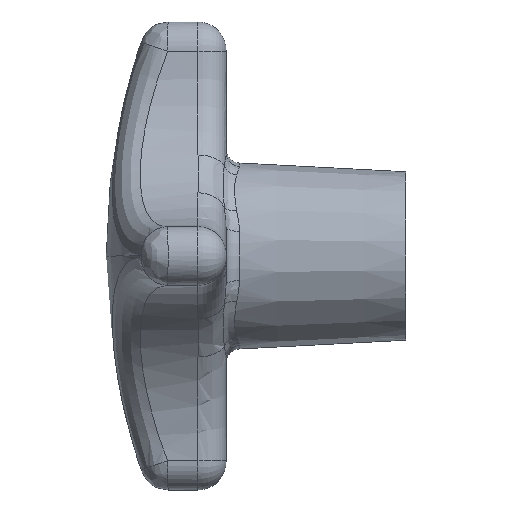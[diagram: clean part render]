
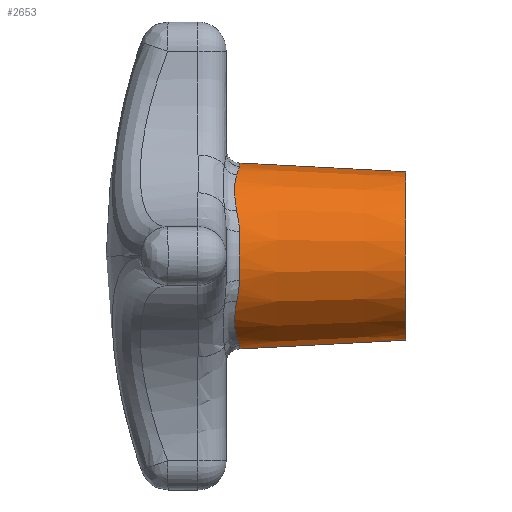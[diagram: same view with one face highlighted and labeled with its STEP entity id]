
A CAD part, left-side view. The second image highlights one B-rep face of the part: STEP entity #2653.
In plain terms, the highlighted conical face has half-angle 3 degrees and reference radius 9 mm.
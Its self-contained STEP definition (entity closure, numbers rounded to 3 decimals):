
#12 = CARTESIAN_POINT ( 'NONE',  ( -8.664, -1.126, 4.887 ) ) ;
#23 = CARTESIAN_POINT ( 'NONE',  ( -8.446, -1.043, 5.281 ) ) ;
#24 = EDGE_CURVE ( 'NONE', #2243, #1376, #2958, .T. ) ;
#108 = VERTEX_POINT ( 'NONE', #3101 ) ;
#125 = CARTESIAN_POINT ( 'NONE',  ( -8.446, -1.043, -5.282 ) ) ;
#136 = CARTESIAN_POINT ( 'NONE',  ( -8.201, -0.998, -5.659 ) ) ;
#155 = DIRECTION ( 'NONE',  ( 0., -1., 0. ) ) ;
#156 = EDGE_CURVE ( 'NONE', #2243, #2317, #3450, .T. ) ;
#173 = CONICAL_SURFACE ( 'NONE', #2635, 9., 0.052 ) ;
#211 = CARTESIAN_POINT ( 'NONE',  ( -4.887, -1.126, 8.664 ) ) ;
#258 = DIRECTION ( 'NONE',  ( 0., 1., 0. ) ) ;
#284 = VERTEX_POINT ( 'NONE', #2660 ) ;
#285 = CARTESIAN_POINT ( 'NONE',  ( 0., -19.2, 9. ) ) ;
#317 = AXIS2_PLACEMENT_3D ( 'NONE', #3283, #3272, #1572 ) ;
#330 = ORIENTED_EDGE ( 'NONE', *, *, #358, .T. ) ;
#355 = CARTESIAN_POINT ( 'NONE',  ( 0., -1.421, 9.932 ) ) ;
#358 = EDGE_CURVE ( 'NONE', #1628, #3368, #2911, .T. ) ;
#389 = ORIENTED_EDGE ( 'NONE', *, *, #24, .T. ) ;
#405 = VECTOR ( 'NONE', #544, 1000. ) ;
#409 = EDGE_CURVE ( 'NONE', #1769, #2745, #507, .T. ) ;
#413 = CARTESIAN_POINT ( 'NONE',  ( -5.281, -1.043, -8.446 ) ) ;
#435 = CARTESIAN_POINT ( 'NONE',  ( -3.429, -1.421, -9.358 ) ) ;
#471 = CARTESIAN_POINT ( 'NONE',  ( -9.358, -1.421, -3.429 ) ) ;
#488 = CARTESIAN_POINT ( 'NONE',  ( -8.664, -1.126, 4.887 ) ) ;
#492 = DIRECTION ( 'NONE',  ( 0., 1., 0. ) ) ;
#507 = B_SPLINE_CURVE_WITH_KNOTS ( 'NONE', 3,
 ( #2389, #985, #435, #727 ),
 .UNSPECIFIED., .F., .F.,
 ( 4, 4 ),
 ( 0., 0.002 ),
 .UNSPECIFIED. ) ;
#519 = EDGE_LOOP ( 'NONE', ( #1465, #389, #2466, #330, #2872, #3055, #1810, #3405, #663, #686, #1164, #2521 ) ) ;
#544 = DIRECTION ( 'NONE',  ( 0., 0.999, 0.052 ) ) ;
#573 = EDGE_CURVE ( 'NONE', #284, #108, #1304, .T. ) ;
#600 = AXIS2_PLACEMENT_3D ( 'NONE', #3227, #155, #1522 ) ;
#601 = DIRECTION ( 'NONE',  ( 0., 0.999, -0.052 ) ) ;
#663 = ORIENTED_EDGE ( 'NONE', *, *, #573, .T. ) ;
#686 = ORIENTED_EDGE ( 'NONE', *, *, #747, .T. ) ;
#694 = CARTESIAN_POINT ( 'NONE',  ( -4.177, -1.276, 9.056 ) ) ;
#696 = CARTESIAN_POINT ( 'NONE',  ( -6.377, -0.936, -7.66 ) ) ;
#711 = B_SPLINE_CURVE_WITH_KNOTS ( 'NONE', 3,
 ( #2515, #2499, #852, #840, #2803, #1136, #1391, #3383, #23, #12 ),
 .UNSPECIFIED., .F., .F.,
 ( 4, 2, 2, 2, 4 ),
 ( 0., 0.001, 0.003, 0.004, 0.005 ),
 .UNSPECIFIED. ) ;
#727 = CARTESIAN_POINT ( 'NONE',  ( -2.63, -1.421, -9.577 ) ) ;
#747 = EDGE_CURVE ( 'NONE', #108, #1769, #815, .T. ) ;
#797 = CARTESIAN_POINT ( 'NONE',  ( -8.664, -1.126, -4.887 ) ) ;
#815 = B_SPLINE_CURVE_WITH_KNOTS ( 'NONE', 3,
 ( #1513, #125, #136, #2358, #2079, #3521, #696, #2663, #413, #3230 ),
 .UNSPECIFIED., .F., .F.,
 ( 4, 2, 2, 2, 4 ),
 ( 0., 0.001, 0.003, 0.004, 0.005 ),
 .UNSPECIFIED. ) ;
#840 = CARTESIAN_POINT ( 'NONE',  ( -6.377, -0.936, 7.661 ) ) ;
#852 = CARTESIAN_POINT ( 'NONE',  ( -5.659, -0.998, 8.201 ) ) ;
#924 = DIRECTION ( 'NONE',  ( 0., -1., 0. ) ) ;
#931 = CARTESIAN_POINT ( 'NONE',  ( -9.056, -1.276, 4.177 ) ) ;
#943 = CARTESIAN_POINT ( 'NONE',  ( 0., -19.2, -9. ) ) ;
#985 = CARTESIAN_POINT ( 'NONE',  ( -4.177, -1.276, -9.056 ) ) ;
#1128 = CARTESIAN_POINT ( 'NONE',  ( 0., -19.2, 9. ) ) ;
#1136 = CARTESIAN_POINT ( 'NONE',  ( -7.363, -0.921, 6.72 ) ) ;
#1155 = CARTESIAN_POINT ( 'NONE',  ( -8.664, -1.126, 4.887 ) ) ;
#1164 = ORIENTED_EDGE ( 'NONE', *, *, #409, .T. ) ;
#1285 = CARTESIAN_POINT ( 'NONE',  ( 0., -19.2, 0. ) ) ;
#1304 = B_SPLINE_CURVE_WITH_KNOTS ( 'NONE', 3,
 ( #3295, #471, #2170, #797 ),
 .UNSPECIFIED., .F., .F.,
 ( 4, 4 ),
 ( 0., 0.002 ),
 .UNSPECIFIED. ) ;
#1376 = VERTEX_POINT ( 'NONE', #285 ) ;
#1391 = CARTESIAN_POINT ( 'NONE',  ( -7.66, -0.936, 6.377 ) ) ;
#1465 = ORIENTED_EDGE ( 'NONE', *, *, #156, .F. ) ;
#1492 = CARTESIAN_POINT ( 'NONE',  ( -2.63, -1.421, 9.577 ) ) ;
#1513 = CARTESIAN_POINT ( 'NONE',  ( -8.664, -1.126, -4.887 ) ) ;
#1522 = DIRECTION ( 'NONE',  ( 0., 0., -1. ) ) ;
#1572 = DIRECTION ( 'NONE',  ( 0., 0., -1. ) ) ;
#1628 = VERTEX_POINT ( 'NONE', #355 ) ;
#1675 = CARTESIAN_POINT ( 'NONE',  ( -2.63, -1.421, -9.577 ) ) ;
#1745 = CARTESIAN_POINT ( 'NONE',  ( 0., -1.421, 0. ) ) ;
#1756 = DIRECTION ( 'NONE',  ( 0., 0., -1. ) ) ;
#1763 = CARTESIAN_POINT ( 'NONE',  ( -9.577, -1.421, 2.63 ) ) ;
#1769 = VERTEX_POINT ( 'NONE', #2928 ) ;
#1810 = ORIENTED_EDGE ( 'NONE', *, *, #2100, .T. ) ;
#1842 = VERTEX_POINT ( 'NONE', #488 ) ;
#1928 = CARTESIAN_POINT ( 'NONE',  ( 0., -19.2, -9. ) ) ;
#1929 = DIRECTION ( 'NONE',  ( 0., 0., 1. ) ) ;
#1982 = EDGE_CURVE ( 'NONE', #1376, #1628, #2278, .T. ) ;
#2079 = CARTESIAN_POINT ( 'NONE',  ( -7.365, -0.921, -6.718 ) ) ;
#2081 = AXIS2_PLACEMENT_3D ( 'NONE', #2441, #258, #1929 ) ;
#2100 = EDGE_CURVE ( 'NONE', #1842, #3361, #2567, .T. ) ;
#2170 = CARTESIAN_POINT ( 'NONE',  ( -9.056, -1.276, -4.177 ) ) ;
#2225 = EDGE_CURVE ( 'NONE', #3368, #3493, #3149, .T. ) ;
#2243 = VERTEX_POINT ( 'NONE', #943 ) ;
#2278 = LINE ( 'NONE', #1128, #405 ) ;
#2317 = VERTEX_POINT ( 'NONE', #3519 ) ;
#2331 = AXIS2_PLACEMENT_3D ( 'NONE', #1745, #924, #1756 ) ;
#2358 = CARTESIAN_POINT ( 'NONE',  ( -7.661, -0.936, -6.377 ) ) ;
#2389 = CARTESIAN_POINT ( 'NONE',  ( -4.887, -1.126, -8.664 ) ) ;
#2438 = DIRECTION ( 'NONE',  ( 0., 0., 1. ) ) ;
#2441 = CARTESIAN_POINT ( 'NONE',  ( 0., -19.2, 0. ) ) ;
#2466 = ORIENTED_EDGE ( 'NONE', *, *, #1982, .T. ) ;
#2476 = EDGE_CURVE ( 'NONE', #3361, #284, #2634, .T. ) ;
#2497 = CIRCLE ( 'NONE', #2331, 9.932 ) ;
#2499 = CARTESIAN_POINT ( 'NONE',  ( -5.282, -1.043, 8.446 ) ) ;
#2515 = CARTESIAN_POINT ( 'NONE',  ( -4.887, -1.126, 8.664 ) ) ;
#2521 = ORIENTED_EDGE ( 'NONE', *, *, #2796, .T. ) ;
#2567 = B_SPLINE_CURVE_WITH_KNOTS ( 'NONE', 3,
 ( #1155, #931, #2902, #1763 ),
 .UNSPECIFIED., .F., .F.,
 ( 4, 4 ),
 ( 0., 0.002 ),
 .UNSPECIFIED. ) ;
#2614 = CARTESIAN_POINT ( 'NONE',  ( -3.429, -1.421, 9.358 ) ) ;
#2634 = CIRCLE ( 'NONE', #317, 9.932 ) ;
#2635 = AXIS2_PLACEMENT_3D ( 'NONE', #1285, #492, #2438 ) ;
#2653 = ADVANCED_FACE ( 'NONE', ( #2858 ), #173, .T. ) ;
#2660 = CARTESIAN_POINT ( 'NONE',  ( -9.577, -1.421, -2.63 ) ) ;
#2663 = CARTESIAN_POINT ( 'NONE',  ( -5.659, -0.998, -8.201 ) ) ;
#2683 = VECTOR ( 'NONE', #601, 1000. ) ;
#2745 = VERTEX_POINT ( 'NONE', #1675 ) ;
#2796 = EDGE_CURVE ( 'NONE', #2745, #2317, #2497, .T. ) ;
#2803 = CARTESIAN_POINT ( 'NONE',  ( -6.718, -0.921, 7.365 ) ) ;
#2858 = FACE_OUTER_BOUND ( 'NONE', #519, .T. ) ;
#2872 = ORIENTED_EDGE ( 'NONE', *, *, #2225, .T. ) ;
#2902 = CARTESIAN_POINT ( 'NONE',  ( -9.358, -1.421, 3.429 ) ) ;
#2911 = CIRCLE ( 'NONE', #600, 9.932 ) ;
#2928 = CARTESIAN_POINT ( 'NONE',  ( -4.887, -1.126, -8.664 ) ) ;
#2958 = CIRCLE ( 'NONE', #2081, 9. ) ;
#3055 = ORIENTED_EDGE ( 'NONE', *, *, #3134, .T. ) ;
#3101 = CARTESIAN_POINT ( 'NONE',  ( -8.664, -1.126, -4.887 ) ) ;
#3134 = EDGE_CURVE ( 'NONE', #3493, #1842, #711, .T. ) ;
#3149 = B_SPLINE_CURVE_WITH_KNOTS ( 'NONE', 3,
 ( #1492, #2614, #694, #3463 ),
 .UNSPECIFIED., .F., .F.,
 ( 4, 4 ),
 ( 0., 0.002 ),
 .UNSPECIFIED. ) ;
#3227 = CARTESIAN_POINT ( 'NONE',  ( 0., -1.421, 0. ) ) ;
#3230 = CARTESIAN_POINT ( 'NONE',  ( -4.887, -1.126, -8.664 ) ) ;
#3272 = DIRECTION ( 'NONE',  ( 0., -1., 0. ) ) ;
#3283 = CARTESIAN_POINT ( 'NONE',  ( 0., -1.421, 0. ) ) ;
#3295 = CARTESIAN_POINT ( 'NONE',  ( -9.577, -1.421, -2.63 ) ) ;
#3361 = VERTEX_POINT ( 'NONE', #3524 ) ;
#3368 = VERTEX_POINT ( 'NONE', #3502 ) ;
#3383 = CARTESIAN_POINT ( 'NONE',  ( -8.201, -0.998, 5.659 ) ) ;
#3405 = ORIENTED_EDGE ( 'NONE', *, *, #2476, .T. ) ;
#3450 = LINE ( 'NONE', #1928, #2683 ) ;
#3463 = CARTESIAN_POINT ( 'NONE',  ( -4.887, -1.126, 8.664 ) ) ;
#3493 = VERTEX_POINT ( 'NONE', #211 ) ;
#3502 = CARTESIAN_POINT ( 'NONE',  ( -2.63, -1.421, 9.577 ) ) ;
#3519 = CARTESIAN_POINT ( 'NONE',  ( 0., -1.421, -9.932 ) ) ;
#3521 = CARTESIAN_POINT ( 'NONE',  ( -6.72, -0.921, -7.363 ) ) ;
#3524 = CARTESIAN_POINT ( 'NONE',  ( -9.577, -1.421, 2.63 ) ) ;
